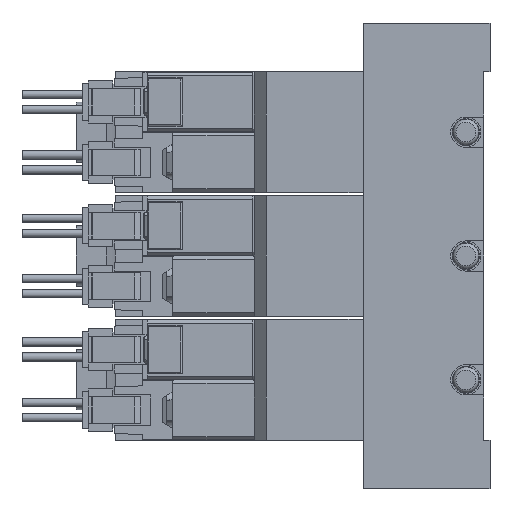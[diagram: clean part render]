
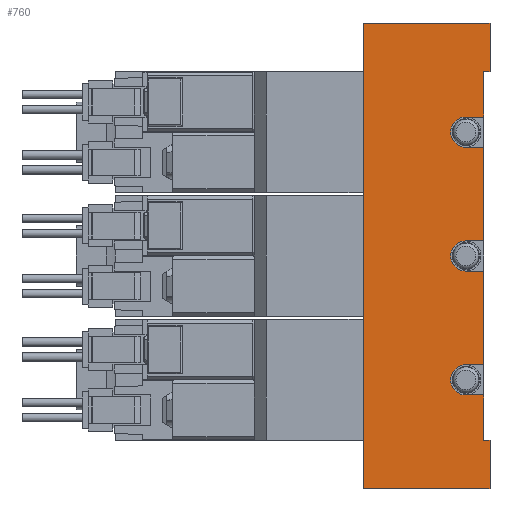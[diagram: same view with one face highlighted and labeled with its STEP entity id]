
A CAD part, left-side view. The second image highlights one B-rep face of the part: STEP entity #760.
In plain terms, the highlighted planar face has unit normal (-1, 0, 0) as drawn and (1, 0, 0) by its records, which use the part's own axes.
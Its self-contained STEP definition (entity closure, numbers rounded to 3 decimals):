
#760=ADVANCED_FACE('',(#1595),#1596,.F.);
#1595=FACE_OUTER_BOUND('',#2502,.T.);
#1596=PLANE('',#2503);
#2502=EDGE_LOOP('',(#5545,#5546,#5547,#5548,#5549,#5550,#5551,#5552,#5553,#5554,#5555,#5556,#5557,#5558,#5559,#5560,#5561,#5562,#5563,#5564));
#2503=AXIS2_PLACEMENT_3D('',#5565,#5566,#5567);
#5545=ORIENTED_EDGE('',*,*,#6771,.T.);
#5546=ORIENTED_EDGE('',*,*,#6772,.T.);
#5547=ORIENTED_EDGE('',*,*,#6773,.F.);
#5548=ORIENTED_EDGE('',*,*,#6744,.F.);
#5549=ORIENTED_EDGE('',*,*,#6754,.T.);
#5550=ORIENTED_EDGE('',*,*,#6710,.T.);
#5551=ORIENTED_EDGE('',*,*,#6774,.T.);
#5552=ORIENTED_EDGE('',*,*,#6775,.F.);
#5553=ORIENTED_EDGE('',*,*,#6776,.F.);
#5554=ORIENTED_EDGE('',*,*,#6777,.F.);
#5555=ORIENTED_EDGE('',*,*,#6778,.T.);
#5556=ORIENTED_EDGE('',*,*,#6779,.F.);
#5557=ORIENTED_EDGE('',*,*,#6768,.F.);
#5558=ORIENTED_EDGE('',*,*,#6715,.F.);
#5559=ORIENTED_EDGE('',*,*,#6780,.T.);
#5560=ORIENTED_EDGE('',*,*,#6781,.F.);
#5561=ORIENTED_EDGE('',*,*,#6782,.F.);
#5562=ORIENTED_EDGE('',*,*,#6761,.F.);
#5563=ORIENTED_EDGE('',*,*,#6783,.T.);
#5564=ORIENTED_EDGE('',*,*,#6784,.T.);
#5565=CARTESIAN_POINT('',(17.5,1.0,38.5));
#5566=DIRECTION('',(-1.0,0.0,0.0));
#5567=DIRECTION('',(0.0,0.0,1.0));
#6710=EDGE_CURVE('',#8318,#8315,#8319,.T.);
#6715=EDGE_CURVE('',#8327,#8328,#8329,.T.);
#6744=EDGE_CURVE('',#8379,#8381,#8382,.T.);
#6754=EDGE_CURVE('',#8379,#8318,#8397,.T.);
#6761=EDGE_CURVE('',#8410,#8411,#8412,.T.);
#6768=EDGE_CURVE('',#8328,#8423,#8424,.T.);
#6771=EDGE_CURVE('',#8428,#8429,#8430,.T.);
#6772=EDGE_CURVE('',#8429,#8431,#8432,.T.);
#6773=EDGE_CURVE('',#8381,#8431,#8433,.T.);
#6774=EDGE_CURVE('',#8315,#8434,#8435,.T.);
#6775=EDGE_CURVE('',#8436,#8434,#8437,.T.);
#6776=EDGE_CURVE('',#8438,#8436,#8439,.T.);
#6777=EDGE_CURVE('',#8440,#8438,#8441,.T.);
#6778=EDGE_CURVE('',#8440,#8442,#8443,.T.);
#6779=EDGE_CURVE('',#8423,#8442,#8444,.T.);
#6780=EDGE_CURVE('',#8327,#8445,#8446,.T.);
#6781=EDGE_CURVE('',#8447,#8445,#8448,.T.);
#6782=EDGE_CURVE('',#8411,#8447,#8449,.T.);
#6783=EDGE_CURVE('',#8410,#8450,#8451,.T.);
#6784=EDGE_CURVE('',#8450,#8428,#8452,.T.);
#8315=VERTEX_POINT('',#11000);
#8318=VERTEX_POINT('',#11004);
#8319=LINE('',#11005,#11006);
#8327=VERTEX_POINT('',#11018);
#8328=VERTEX_POINT('',#11019);
#8329=LINE('',#11020,#11021);
#8379=VERTEX_POINT('',#11087);
#8381=VERTEX_POINT('',#11090);
#8382=LINE('',#11091,#11092);
#8397=LINE('',#11114,#11115);
#8410=VERTEX_POINT('',#11130);
#8411=VERTEX_POINT('',#11131);
#8412=LINE('',#11132,#11133);
#8423=VERTEX_POINT('',#11147);
#8424=CIRCLE('',#11148,2.5);
#8428=VERTEX_POINT('',#11153);
#8429=VERTEX_POINT('',#11154);
#8430=LINE('',#11155,#11156);
#8431=VERTEX_POINT('',#11157);
#8432=LINE('',#11158,#11159);
#8433=LINE('',#11160,#11161);
#8434=VERTEX_POINT('',#11162);
#8435=LINE('',#11163,#11164);
#8436=VERTEX_POINT('',#11165);
#8437=LINE('',#11166,#11167);
#8438=VERTEX_POINT('',#11168);
#8439=CIRCLE('',#11169,2.5);
#8440=VERTEX_POINT('',#11170);
#8441=LINE('',#11171,#11172);
#8442=VERTEX_POINT('',#11173);
#8443=LINE('',#11174,#11175);
#8444=LINE('',#11176,#11177);
#8445=VERTEX_POINT('',#11178);
#8446=LINE('',#11179,#11180);
#8447=VERTEX_POINT('',#11181);
#8448=LINE('',#11182,#11183);
#8449=CIRCLE('',#11184,2.5);
#8450=VERTEX_POINT('',#11185);
#8451=LINE('',#11186,#11187);
#8452=LINE('',#11188,#11189);
#11000=CARTESIAN_POINT('',(17.5,1.0,30.5));
#11004=CARTESIAN_POINT('',(17.5,0.0,30.5));
#11005=CARTESIAN_POINT('',(17.5,0.0,30.5));
#11006=VECTOR('',#12360,1.0);
#11018=CARTESIAN_POINT('',(17.5,1.0,-2.5));
#11019=CARTESIAN_POINT('',(17.5,4.0,-2.5));
#11020=CARTESIAN_POINT('',(17.5,1.0,-2.5));
#11021=VECTOR('',#12365,1.0);
#11087=CARTESIAN_POINT('',(17.5,0.0,38.5));
#11090=CARTESIAN_POINT('',(17.5,21.0,38.5));
#11091=CARTESIAN_POINT('',(17.5,1.0,38.5));
#11092=VECTOR('',#12416,1.0);
#11114=CARTESIAN_POINT('',(17.5,0.0,38.5));
#11115=VECTOR('',#12430,1.0);
#11130=CARTESIAN_POINT('',(17.5,1.0,-23.0));
#11131=CARTESIAN_POINT('',(17.5,4.0,-23.0));
#11132=CARTESIAN_POINT('',(17.5,1.0,-23.0));
#11133=VECTOR('',#12445,1.0);
#11147=CARTESIAN_POINT('',(17.5,4.0,2.5));
#11148=AXIS2_PLACEMENT_3D('',#12458,#12459,#12460);
#11153=CARTESIAN_POINT('',(17.5,0.0,-30.5));
#11154=CARTESIAN_POINT('',(17.5,0.0,-38.5));
#11155=CARTESIAN_POINT('',(17.5,0.0,-30.5));
#11156=VECTOR('',#12465,1.0);
#11157=CARTESIAN_POINT('',(17.5,21.0,-38.5));
#11158=CARTESIAN_POINT('',(17.5,1.0,-38.5));
#11159=VECTOR('',#12466,1.0);
#11160=CARTESIAN_POINT('',(17.5,21.0,38.5));
#11161=VECTOR('',#12467,1.0);
#11162=CARTESIAN_POINT('',(17.5,1.0,23.0));
#11163=CARTESIAN_POINT('',(17.5,1.0,38.5));
#11164=VECTOR('',#12468,1.0);
#11165=CARTESIAN_POINT('',(17.5,4.0,23.0));
#11166=CARTESIAN_POINT('',(17.5,1.0,23.0));
#11167=VECTOR('',#12469,1.0);
#11168=CARTESIAN_POINT('',(17.5,4.0,18.0));
#11169=AXIS2_PLACEMENT_3D('',#12470,#12471,#12472);
#11170=CARTESIAN_POINT('',(17.5,1.0,18.0));
#11171=CARTESIAN_POINT('',(17.5,1.0,18.0));
#11172=VECTOR('',#12473,1.0);
#11173=CARTESIAN_POINT('',(17.5,1.0,2.5));
#11174=CARTESIAN_POINT('',(17.5,1.0,38.5));
#11175=VECTOR('',#12474,1.0);
#11176=CARTESIAN_POINT('',(17.5,1.0,2.5));
#11177=VECTOR('',#12475,1.0);
#11178=CARTESIAN_POINT('',(17.5,1.0,-18.0));
#11179=CARTESIAN_POINT('',(17.5,1.0,38.5));
#11180=VECTOR('',#12476,1.0);
#11181=CARTESIAN_POINT('',(17.5,4.0,-18.0));
#11182=CARTESIAN_POINT('',(17.5,1.0,-18.0));
#11183=VECTOR('',#12477,1.0);
#11184=AXIS2_PLACEMENT_3D('',#12478,#12479,#12480);
#11185=CARTESIAN_POINT('',(17.5,1.0,-30.5));
#11186=CARTESIAN_POINT('',(17.5,1.0,38.5));
#11187=VECTOR('',#12481,1.0);
#11188=CARTESIAN_POINT('',(17.5,4.0,-30.5));
#11189=VECTOR('',#12482,1.0);
#12360=DIRECTION('',(0.0,1.0,0.0));
#12365=DIRECTION('',(0.0,1.0,0.0));
#12416=DIRECTION('',(0.0,1.0,0.0));
#12430=DIRECTION('',(0.0,0.0,-1.0));
#12445=DIRECTION('',(0.0,1.0,0.0));
#12458=CARTESIAN_POINT('',(17.5,4.0,0.0));
#12459=DIRECTION('',(1.0,0.0,-0.0));
#12460=DIRECTION('',(0.0,0.0,1.0));
#12465=DIRECTION('',(0.0,0.0,-1.0));
#12466=DIRECTION('',(0.0,1.0,0.0));
#12467=DIRECTION('',(0.0,0.0,-1.0));
#12468=DIRECTION('',(0.0,0.0,-1.0));
#12469=DIRECTION('',(0.0,-1.0,0.0));
#12470=CARTESIAN_POINT('',(17.5,4.0,20.5));
#12471=DIRECTION('',(1.0,0.0,-0.0));
#12472=DIRECTION('',(0.0,0.0,1.0));
#12473=DIRECTION('',(0.0,1.0,0.0));
#12474=DIRECTION('',(0.0,0.0,-1.0));
#12475=DIRECTION('',(0.0,-1.0,0.0));
#12476=DIRECTION('',(0.0,0.0,-1.0));
#12477=DIRECTION('',(0.0,-1.0,0.0));
#12478=CARTESIAN_POINT('',(17.5,4.0,-20.5));
#12479=DIRECTION('',(1.0,0.0,-0.0));
#12480=DIRECTION('',(0.0,0.0,1.0));
#12481=DIRECTION('',(0.0,0.0,-1.0));
#12482=DIRECTION('',(0.0,-1.0,0.0));
